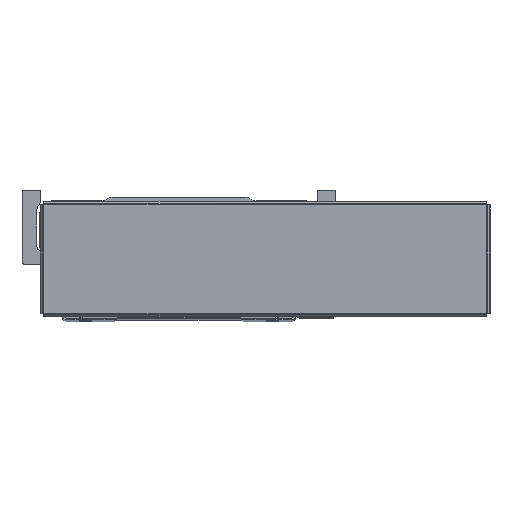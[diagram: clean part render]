
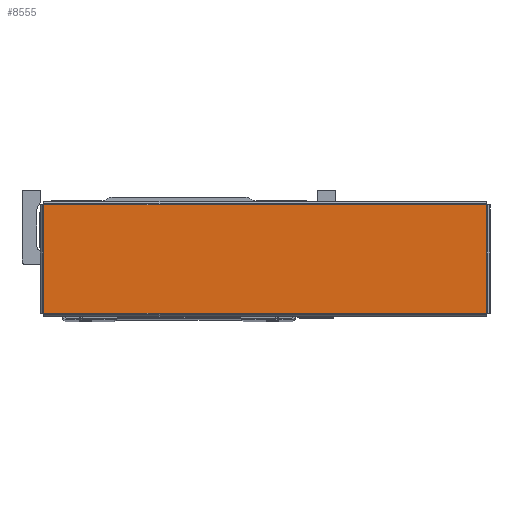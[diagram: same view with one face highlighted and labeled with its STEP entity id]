
A CAD part, top view. The second image highlights one B-rep face of the part: STEP entity #8555.
In plain terms, the highlighted planar face has unit normal (0, 0, 1) as drawn and (0, -1, 0) by its records, which use the part's own axes.
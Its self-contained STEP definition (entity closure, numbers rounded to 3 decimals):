
#8555 = ADVANCED_FACE ( 'NONE', ( #39956 ), #52569, .F. ) ;
#11636 = CARTESIAN_POINT ( 'NONE',  ( -128.363, -1.2, -31.363 ) ) ;
#11638 = CARTESIAN_POINT ( 'NONE',  ( 128.363, -1.2, -31.363 ) ) ;
#11681 = CARTESIAN_POINT ( 'NONE',  ( -128.363, -1.2, 31.363 ) ) ;
#11733 = CARTESIAN_POINT ( 'NONE',  ( 128.363, -1.2, 31.363 ) ) ;
#17099 = ORIENTED_EDGE ( 'NONE', *, *, #51270, .T. ) ;
#17101 = ORIENTED_EDGE ( 'NONE', *, *, #51252, .T. ) ;
#17109 = ORIENTED_EDGE ( 'NONE', *, *, #51165, .T. ) ;
#17182 = ORIENTED_EDGE ( 'NONE', *, *, #51220, .T. ) ;
#27252 = LINE ( 'NONE', #44449, #27254 ) ;
#27254 = VECTOR ( 'NONE', #44439, 1000. ) ;
#27411 = LINE ( 'NONE', #44582, #27415 ) ;
#27415 = VECTOR ( 'NONE', #44550, 1000. ) ;
#27417 = LINE ( 'NONE', #44634, #27483 ) ;
#27458 = LINE ( 'NONE', #44701, #27491 ) ;
#27483 = VECTOR ( 'NONE', #44643, 1000. ) ;
#27491 = VECTOR ( 'NONE', #44683, 1000. ) ;
#31645 = VERTEX_POINT ( 'NONE', #11636 ) ;
#31649 = VERTEX_POINT ( 'NONE', #11638 ) ;
#31653 = VERTEX_POINT ( 'NONE', #11681 ) ;
#31712 = VERTEX_POINT ( 'NONE', #11733 ) ;
#35241 = EDGE_LOOP ( 'NONE', ( #17182, #17101, #17109, #17099 ) ) ;
#39956 = FACE_OUTER_BOUND ( 'NONE', #35241, .T. ) ;
#44439 = DIRECTION ( 'NONE',  ( 1., 0., 0. ) ) ;
#44449 = CARTESIAN_POINT ( 'NONE',  ( -128.393, -1.2, -31.363 ) ) ;
#44550 = DIRECTION ( 'NONE',  ( -1., 0., 0. ) ) ;
#44582 = CARTESIAN_POINT ( 'NONE',  ( 128.393, -1.2, 31.363 ) ) ;
#44634 = CARTESIAN_POINT ( 'NONE',  ( -128.363, -1.2, 31.393 ) ) ;
#44643 = DIRECTION ( 'NONE',  ( 0., 0., -1. ) ) ;
#44683 = DIRECTION ( 'NONE',  ( 0., 0., 1. ) ) ;
#44701 = CARTESIAN_POINT ( 'NONE',  ( 128.363, -1.2, -31.393 ) ) ;
#51165 = EDGE_CURVE ( 'NONE', #31645, #31649, #27252, .T. ) ;
#51220 = EDGE_CURVE ( 'NONE', #31712, #31653, #27411, .T. ) ;
#51252 = EDGE_CURVE ( 'NONE', #31653, #31645, #27417, .T. ) ;
#51270 = EDGE_CURVE ( 'NONE', #31649, #31712, #27458, .T. ) ;
#51770 = AXIS2_PLACEMENT_3D ( 'NONE', #52578, #52588, #52574 ) ;
#52569 = PLANE ( 'NONE',  #51770 ) ;
#52574 = DIRECTION ( 'NONE',  ( 0., 0., 1. ) ) ;
#52578 = CARTESIAN_POINT ( 'NONE',  ( 0., -1.2, 0. ) ) ;
#52588 = DIRECTION ( 'NONE',  ( 0., 1., 0. ) ) ;
